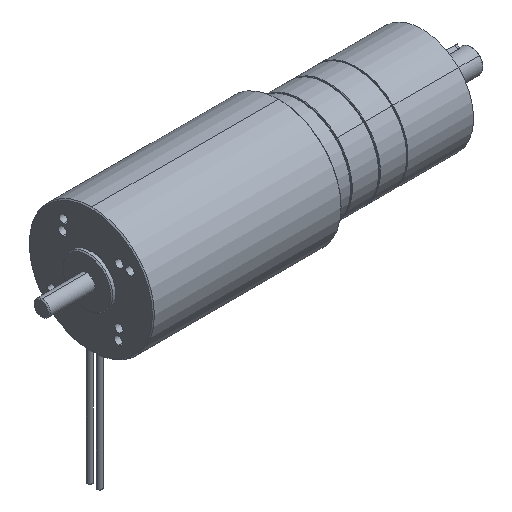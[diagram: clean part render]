
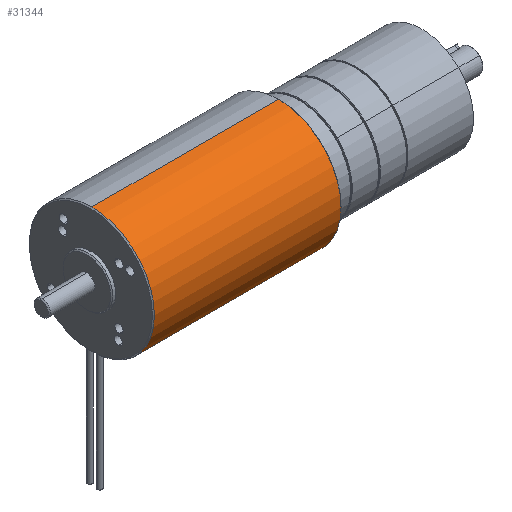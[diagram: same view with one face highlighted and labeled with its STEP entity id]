
A CAD part, isometric view. The second image highlights one B-rep face of the part: STEP entity #31344.
In plain terms, the highlighted cylindrical face has radius 31.5 mm (diameter 63 mm), a partial arc.
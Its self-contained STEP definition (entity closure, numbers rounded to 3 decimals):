
#755 = DIRECTION ( 'NONE',  ( -1., 0., 0. ) ) ;
#1816 = VERTEX_POINT ( 'NONE', #35495 ) ;
#2090 = CIRCLE ( 'NONE', #27153, 31.5 ) ;
#2577 = VECTOR ( 'NONE', #26337, 1000. ) ;
#3205 = CARTESIAN_POINT ( 'NONE',  ( 25.75, -2.5, -31.401 ) ) ;
#3358 = VERTEX_POINT ( 'NONE', #27127 ) ;
#3516 = DIRECTION ( 'NONE',  ( 1., 0., 0. ) ) ;
#3541 = EDGE_CURVE ( 'NONE', #1816, #35695, #27222, .T. ) ;
#4321 = DIRECTION ( 'NONE',  ( 0., 0., 1. ) ) ;
#5473 = VERTEX_POINT ( 'NONE', #44729 ) ;
#5730 = CARTESIAN_POINT ( 'NONE',  ( -195.728, 0., 0. ) ) ;
#6211 = CARTESIAN_POINT ( 'NONE',  ( 25.5, 0., -31.5 ) ) ;
#6636 = CARTESIAN_POINT ( 'NONE',  ( 26.37, -1.408, -31.469 ) ) ;
#7006 = CARTESIAN_POINT ( 'NONE',  ( 27.626, -3.585, -31.295 ) ) ;
#7095 = ORIENTED_EDGE ( 'NONE', *, *, #20036, .F. ) ;
#7253 = CARTESIAN_POINT ( 'NONE',  ( 27.554, -3.623, -31.291 ) ) ;
#7503 = CARTESIAN_POINT ( 'NONE',  ( 26., -3.267, -31.33 ) ) ;
#7742 = CARTESIAN_POINT ( 'NONE',  ( 27.826, -3.441, -31.312 ) ) ;
#9883 = ORIENTED_EDGE ( 'NONE', *, *, #3541, .T. ) ;
#9928 = CARTESIAN_POINT ( 'NONE',  ( 27.995, -1.739, -31.452 ) ) ;
#10113 = VERTEX_POINT ( 'NONE', #21914 ) ;
#10694 = CARTESIAN_POINT ( 'NONE',  ( 25.758, -2.336, -31.413 ) ) ;
#11654 = ORIENTED_EDGE ( 'NONE', *, *, #21049, .T. ) ;
#12203 = VERTEX_POINT ( 'NONE', #22968 ) ;
#13116 = FACE_OUTER_BOUND ( 'NONE', #46130, .T. ) ;
#13495 = CARTESIAN_POINT ( 'NONE',  ( 26.232, -1.5, -31.464 ) ) ;
#13745 = CARTESIAN_POINT ( 'NONE',  ( 28.124, -1.946, -31.44 ) ) ;
#14270 = CARTESIAN_POINT ( 'NONE',  ( 26.673, -1.282, -31.474 ) ) ;
#14726 = CARTESIAN_POINT ( 'NONE',  ( -195.728, 0., -31.5 ) ) ;
#17392 = B_SPLINE_CURVE_WITH_KNOTS ( 'NONE', 3,
 ( #3205, #49911, #26524, #22480, #7503, #26285, #22995, #42007, #18944, #34634, #49661, #7253, #7006, #22734, #7742, #45629, #38229, #33893, #33651, #34402 ),
 .UNSPECIFIED., .F., .F.,
 ( 4, 2, 2, 2, 2, 2, 2, 2, 2, 4 ),
 ( 0.004, 0.004, 0.005, 0.005, 0.006, 0.006, 0.007, 0.007, 0.007, 0.008 ),
 .UNSPECIFIED. ) ;
#18302 = CARTESIAN_POINT ( 'NONE',  ( 28.25, -2.335, -31.414 ) ) ;
#18944 = CARTESIAN_POINT ( 'NONE',  ( 26.834, -3.75, -31.276 ) ) ;
#20036 = EDGE_CURVE ( 'NONE', #3358, #35695, #38022, .T. ) ;
#20378 = CARTESIAN_POINT ( 'NONE',  ( -195.728, 0., 31.5 ) ) ;
#21049 = EDGE_CURVE ( 'NONE', #10113, #1816, #47312, .T. ) ;
#21206 = DIRECTION ( 'NONE',  ( -1., 0., 0. ) ) ;
#21914 = CARTESIAN_POINT ( 'NONE',  ( 119.5, 0., 31.5 ) ) ;
#22153 = EDGE_CURVE ( 'NONE', #3358, #10113, #2090, .T. ) ;
#22480 = CARTESIAN_POINT ( 'NONE',  ( 25.907, -3.128, -31.345 ) ) ;
#22734 = CARTESIAN_POINT ( 'NONE',  ( 27.762, -3.494, -31.306 ) ) ;
#22968 = CARTESIAN_POINT ( 'NONE',  ( 28.25, -2.5, -31.401 ) ) ;
#22995 = CARTESIAN_POINT ( 'NONE',  ( 26.368, -3.591, -31.295 ) ) ;
#23934 = DIRECTION ( 'NONE',  ( -1., 0., 0. ) ) ;
#24078 = ORIENTED_EDGE ( 'NONE', *, *, #31893, .T. ) ;
#25405 = CARTESIAN_POINT ( 'NONE',  ( 27.328, -1.283, -31.474 ) ) ;
#25637 = CARTESIAN_POINT ( 'NONE',  ( 27.164, -1.25, -31.475 ) ) ;
#25901 = CARTESIAN_POINT ( 'NONE',  ( 25.75, -2.5, -31.401 ) ) ;
#26097 = CARTESIAN_POINT ( 'NONE',  ( 25.5, 0., 0. ) ) ;
#26161 = CARTESIAN_POINT ( 'NONE',  ( 25.814, -2.098, -31.43 ) ) ;
#26285 = CARTESIAN_POINT ( 'NONE',  ( 26.23, -3.498, -31.305 ) ) ;
#26337 = DIRECTION ( 'NONE',  ( -1., 0., 0. ) ) ;
#26524 = CARTESIAN_POINT ( 'NONE',  ( 25.783, -2.827, -31.373 ) ) ;
#27127 = CARTESIAN_POINT ( 'NONE',  ( 119.5, 0., -31.5 ) ) ;
#27153 = AXIS2_PLACEMENT_3D ( 'NONE', #47208, #755, #4321 ) ;
#27222 = CIRCLE ( 'NONE', #28052, 31.5 ) ;
#27593 = AXIS2_PLACEMENT_3D ( 'NONE', #5730, #21206, #32905 ) ;
#27784 = EDGE_CURVE ( 'NONE', #5473, #12203, #17392, .T. ) ;
#28052 = AXIS2_PLACEMENT_3D ( 'NONE', #26097, #3516, #41805 ) ;
#28900 = ORIENTED_EDGE ( 'NONE', *, *, #27784, .T. ) ;
#28972 = CARTESIAN_POINT ( 'NONE',  ( 27.942, -1.674, -31.456 ) ) ;
#29226 = CARTESIAN_POINT ( 'NONE',  ( 25.79, -2.176, -31.425 ) ) ;
#29737 = CARTESIAN_POINT ( 'NONE',  ( 27.769, -1.501, -31.464 ) ) ;
#31344 = ADVANCED_FACE ( 'NONE', ( #13116, #32658 ), #44323, .T. ) ;
#31893 = EDGE_CURVE ( 'NONE', #12203, #5473, #41365, .T. ) ;
#32658 = FACE_BOUND ( 'NONE', #49711, .T. ) ;
#32905 = DIRECTION ( 'NONE',  ( 0., 0., 1. ) ) ;
#33651 = CARTESIAN_POINT ( 'NONE',  ( 28.25, -2.665, -31.387 ) ) ;
#33893 = CARTESIAN_POINT ( 'NONE',  ( 28.217, -2.829, -31.373 ) ) ;
#34395 = VECTOR ( 'NONE', #23934, 1000. ) ;
#34402 = CARTESIAN_POINT ( 'NONE',  ( 28.25, -2.5, -31.401 ) ) ;
#34492 = ORIENTED_EDGE ( 'NONE', *, *, #22153, .T. ) ;
#34634 = CARTESIAN_POINT ( 'NONE',  ( 27.164, -3.75, -31.276 ) ) ;
#35495 = CARTESIAN_POINT ( 'NONE',  ( 25.5, 0., 31.5 ) ) ;
#35695 = VERTEX_POINT ( 'NONE', #6211 ) ;
#36812 = CARTESIAN_POINT ( 'NONE',  ( 25.999, -1.733, -31.452 ) ) ;
#37065 = CARTESIAN_POINT ( 'NONE',  ( 26.837, -1.25, -31.475 ) ) ;
#37588 = CARTESIAN_POINT ( 'NONE',  ( 27.629, -1.408, -31.469 ) ) ;
#38022 = LINE ( 'NONE', #14726, #2577 ) ;
#38229 = CARTESIAN_POINT ( 'NONE',  ( 28.092, -3.129, -31.345 ) ) ;
#40624 = CARTESIAN_POINT ( 'NONE',  ( 28.218, -2.173, -31.425 ) ) ;
#41135 = CARTESIAN_POINT ( 'NONE',  ( 25.75, -2.419, -31.407 ) ) ;
#41365 = B_SPLINE_CURVE_WITH_KNOTS ( 'NONE', 3,
 ( #44726, #18302, #40624, #13745, #48486, #9928, #28972, #29737, #37588, #25405, #25637, #37065, #14270, #6636, #13495, #36812, #48249, #26161, #29226, #10694, #41135, #25901 ),
 .UNSPECIFIED., .F., .F.,
 ( 4, 2, 2, 2, 2, 2, 2, 2, 2, 2, 4 ),
 ( 0., 0., 0.001, 0.001, 0.001, 0.002, 0.002, 0.003, 0.003, 0.004, 0.004 ),
 .UNSPECIFIED. ) ;
#41805 = DIRECTION ( 'NONE',  ( 0., 0., -1. ) ) ;
#42007 = CARTESIAN_POINT ( 'NONE',  ( 26.671, -3.717, -31.28 ) ) ;
#44323 = CYLINDRICAL_SURFACE ( 'NONE', #27593, 31.5 ) ;
#44726 = CARTESIAN_POINT ( 'NONE',  ( 28.25, -2.5, -31.401 ) ) ;
#44729 = CARTESIAN_POINT ( 'NONE',  ( 25.75, -2.5, -31.401 ) ) ;
#45629 = CARTESIAN_POINT ( 'NONE',  ( 27.999, -3.268, -31.33 ) ) ;
#46130 = EDGE_LOOP ( 'NONE', ( #7095, #34492, #11654, #9883 ) ) ;
#47208 = CARTESIAN_POINT ( 'NONE',  ( 119.5, 0., 0. ) ) ;
#47312 = LINE ( 'NONE', #20378, #34395 ) ;
#48249 = CARTESIAN_POINT ( 'NONE',  ( 25.907, -1.871, -31.445 ) ) ;
#48486 = CARTESIAN_POINT ( 'NONE',  ( 28.085, -1.875, -31.444 ) ) ;
#49661 = CARTESIAN_POINT ( 'NONE',  ( 27.327, -3.718, -31.28 ) ) ;
#49711 = EDGE_LOOP ( 'NONE', ( #24078, #28900 ) ) ;
#49911 = CARTESIAN_POINT ( 'NONE',  ( 25.75, -2.663, -31.388 ) ) ;
